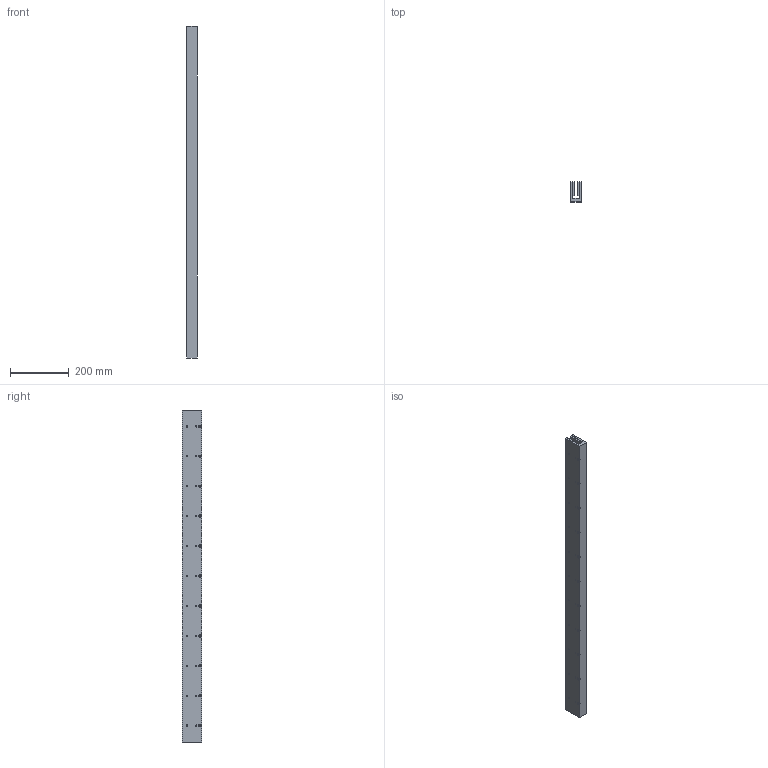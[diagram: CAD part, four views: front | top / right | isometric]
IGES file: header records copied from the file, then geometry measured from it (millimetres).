
Global section: file name: No Iges File Name specified; native system: Autodesk Inventor 2009; preprocessor: AutoDesk Inventor Iges Exporter R2009; author: je17857; date: 20091116.111610; units: inch
Bounding box: 34.29 x 67.31 x 1127.76 mm (x, y, z)
Volume: 1686334.7 mm3; surface area: 424503.4 mm2
Topology: 1 solids, 1 shells, 578 faces, 1374 edges, 916 vertices
Faces by surface type: plane 402, bspline 176
